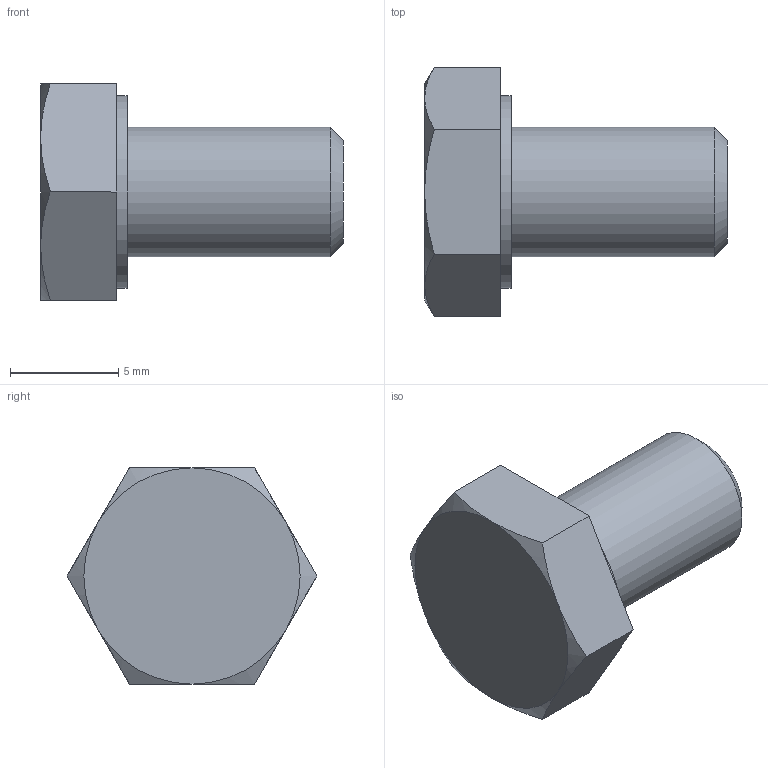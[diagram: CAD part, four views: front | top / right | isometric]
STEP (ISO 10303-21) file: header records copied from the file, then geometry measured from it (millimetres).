
FILE_DESCRIPTION(/* description */ ('6각 머리 볼트 및 6각 머리 나사'),/* implementation_level */ '2;1');
FILE_NAME(/* name */ '',/* time_stamp */ '2026-03-26T11:08:02+09:00',/* author */ ('jhkim'),/* organization */ (''),/* preprocessor_version */ 'ST-DEVELOPER v20.1',/* originating_system */ 'Autodesk Inventor 2026',/* authorisation */ '');
FILE_SCHEMA (('AUTOMOTIVE_DESIGN { 1 0 10303 214 3 1 1 }'));
Length unit declared in the file: millimetre
Products named in the file (1): 플러그 M6x0.75
Bounding box: 14 x 11.55 x 10 mm (x, y, z)
Volume: 612.4 mm3; surface area: 485.6 mm2
Topology: 1 solids, 1 shells, 19 faces, 39 edges, 24 vertices
Faces by surface type: plane 10, cone 7, cylinder 2
Full cylindrical faces by diameter (mm): 6 x1, 8.88 x1
Entity records: 528 total; most frequent: CARTESIAN_POINT 107, DIRECTION 79, ORIENTED_EDGE 78, EDGE_CURVE 39, AXIS2_PLACEMENT_3D 32, VERTEX_POINT 24, EDGE_LOOP 21, FACE_OUTER_BOUND 19
